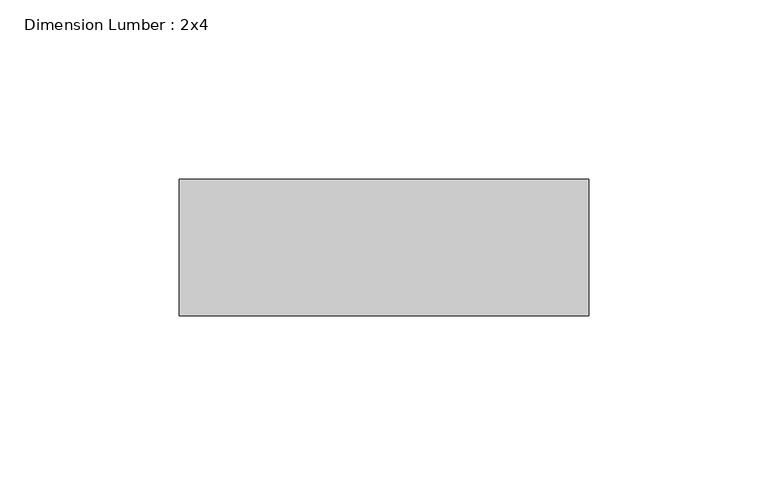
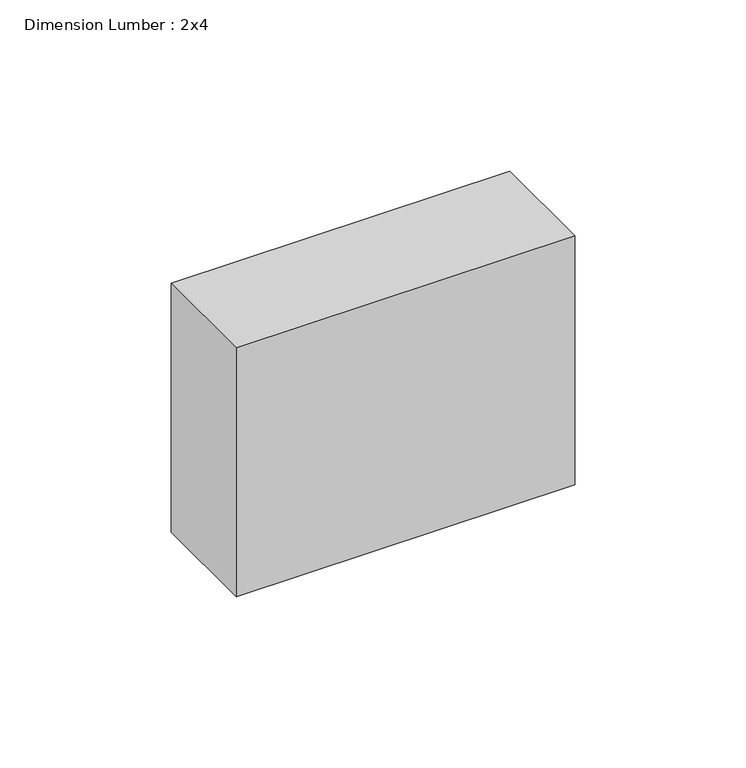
"""IFC4 building model written with IfcOpenShell, lengths in millimetres: beam geometry, Dimension Lumber : 2x4."""

import ifcopenshell
import ifcopenshell.guid

model = None  # the IFC model being written
_history = None  # IfcOwnerHistory: only IFC2X3 demands one
_inside = {}  # id of a spatial element -> (the spatial element, [elements in it])
_under = {}  # id of a project, library or spatial element -> (it, [spatial elements below it])
_declared = {}  # id of a project -> (the project, [libraries it declares])
_typed = {}  # id of a type object -> (the type object, [elements of that type])
_made_of = {}  # id of a material, layer set ... -> (it, [elements and type objects made of it])


def new_model(schema):
    """Start an empty IFC model of exactly this schema.

    Asked for "IFC4X3", IfcOpenShell would pick the latest addendum, in which some entities
    have other attributes; the version numbers below select the first issue.
    IFC2X3 requires an IfcOwnerHistory on every rooted entity: one is made here for all.
    """
    global model, _history
    if schema == "IFC4X3":
        model = ifcopenshell.file(schema_version=(4, 3, 0, 0))
    else:
        model = ifcopenshell.file(schema=schema)
    _inside.clear()
    _under.clear()
    _declared.clear()
    _typed.clear()
    _made_of.clear()
    _history = None
    if model.schema == "IFC2X3":
        org = make("IfcOrganization", Name="unknown")
        user = make(
            "IfcPersonAndOrganization",
            ThePerson=make("IfcPerson", FamilyName="unknown"),
            TheOrganization=org,
        )
        app = make(
            "IfcApplication",
            ApplicationDeveloper=org,
            Version="unknown",
            ApplicationFullName="unknown",
            ApplicationIdentifier="unknown",
        )
        _history = make(
            "IfcOwnerHistory",
            OwningUser=user,
            OwningApplication=app,
            ChangeAction="ADDED",
            CreationDate=0,
        )
    return model


def make(cls, **values):
    """One entity of the class cls with the attributes given. An attribute that is None is left unset."""
    return model.create_entity(
        cls, **{name: value for name, value in values.items() if value is not None}
    )


def rooted(cls, **values):
    """An entity with a GlobalId (a new one), such as an element, a storey or a relation."""
    return make(cls, GlobalId=ifcopenshell.guid.new(), OwnerHistory=_history, **values)


def si_unit(unit_type, name, prefix=None):
    """IfcSIUnit, for example si_unit("LENGTHUNIT", "METRE", prefix="MILLI")."""
    return make("IfcSIUnit", UnitType=unit_type, Prefix=prefix, Name=name)


def assignment(units):
    """IfcUnitAssignment: the units of a project."""
    return None if units is None else make("IfcUnitAssignment", Units=units)


def point(xyz):
    """IfcCartesianPoint."""
    return None if xyz is None else make("IfcCartesianPoint", Coordinates=xyz)


def direction(xyz):
    """IfcDirection."""
    return None if xyz is None else make("IfcDirection", DirectionRatios=xyz)


def frame(location, z_axis=None, x_axis=None):
    """IfcAxis2Placement3D, a coordinate frame: its origin and axes. An axis left out is left unset."""
    return make(
        "IfcAxis2Placement3D",
        Location=point(location),
        Axis=direction(z_axis),
        RefDirection=direction(x_axis),
    )


def origin():
    """The frame at (0, 0, 0) with its axes left unset."""
    return frame((0.0, 0.0, 0.0))


def place(relative_to, where):
    """IfcLocalPlacement: puts the frame where relative to a parent placement (None: the world)."""
    return make(
        "IfcLocalPlacement", PlacementRelTo=relative_to, RelativePlacement=where
    )


def context(
    kind, dimensions, precision=None, world=None, true_north=None, identifier=None
):
    """IfcGeometricRepresentationContext, for example the 3D "Model" context."""
    return make(
        "IfcGeometricRepresentationContext",
        ContextIdentifier=identifier,
        ContextType=kind,
        CoordinateSpaceDimension=dimensions,
        Precision=precision,
        WorldCoordinateSystem=world,
        TrueNorth=true_north,
    )


def project(units=None, contexts=None):
    """IfcProject with its units and contexts."""
    return rooted(
        "IfcProject",
        Name="project",
        RepresentationContexts=contexts,
        UnitsInContext=assignment(units),
    )


def spatial(cls, under=None, at=None, **own):
    """A site, building, storey or space (cls), placed at a placement, below another one or the project."""
    s = rooted(cls, ObjectPlacement=at, **own)
    if under is not None:
        _under.setdefault(under.id(), (under, []))[1].append(s)
    return s


def polyline(points):
    """IfcPolyline through the points."""
    return make("IfcPolyline", Points=[point(p) for p in points])


def outline(outer, holes=None, kind="AREA"):
    """IfcArbitraryClosedProfileDef: a profile drawn as a closed curve; with holes, ...WithVoids."""
    if holes is None:
        return make("IfcArbitraryClosedProfileDef", ProfileType=kind, OuterCurve=outer)
    return make(
        "IfcArbitraryProfileDefWithVoids",
        ProfileType=kind,
        OuterCurve=outer,
        InnerCurves=holes,
    )


def extrude(swept, where, along, depth):
    """IfcExtrudedAreaSolid: the profile swept, set in the frame where, extruded along a direction by depth."""
    return make(
        "IfcExtrudedAreaSolid",
        SweptArea=swept,
        Position=where,
        ExtrudedDirection=direction(along),
        Depth=depth,
    )


def shape(context_of_items, identifier, shape_type, items):
    """IfcShapeRepresentation: the items that make up one representation, for example the "Body"."""
    return make(
        "IfcShapeRepresentation",
        ContextOfItems=context_of_items,
        RepresentationIdentifier=identifier,
        RepresentationType=shape_type,
        Items=items,
    )


def source(mapping_origin, context_of_items, identifier, shape_type, items):
    """IfcRepresentationMap: a shape defined once, which mapped items show again and again."""
    return make(
        "IfcRepresentationMap",
        MappingOrigin=mapping_origin,
        MappedRepresentation=shape(context_of_items, identifier, shape_type, items),
    )


def transform(
    local_origin,
    x_axis=None,
    y_axis=None,
    z_axis=None,
    scale=None,
    scale2=None,
    scale3=None,
    uniform=True,
):
    """IfcCartesianTransformationOperator3D, or its non-uniform kind. x_axis, y_axis, z_axis: its Axis1, 2, 3."""
    if uniform:
        return make(
            "IfcCartesianTransformationOperator3D",
            Axis1=direction(x_axis),
            Axis2=direction(y_axis),
            LocalOrigin=point(local_origin),
            Scale=scale,
            Axis3=direction(z_axis),
        )
    return make(
        "IfcCartesianTransformationOperator3DnonUniform",
        Axis1=direction(x_axis),
        Axis2=direction(y_axis),
        LocalOrigin=point(local_origin),
        Scale=scale,
        Axis3=direction(z_axis),
        Scale2=scale2,
        Scale3=scale3,
    )


def mapped(mapping_source, mapping_target):
    """IfcMappedItem: shows the shape of a source again, moved by a transform."""
    return make(
        "IfcMappedItem", MappingSource=mapping_source, MappingTarget=mapping_target
    )


def made_of(thing, what):
    """Note that an element or type object is made of a material, layer set ...; save() writes the relation."""
    if what is not None:
        _made_of.setdefault(what.id(), (what, []))[1].append(thing)
    return thing


def element(
    cls,
    number,
    at=None,
    inside=None,
    cuts=None,
    type_object=None,
    material=None,
    context=None,
    identifier="Body",
    shape_type=None,
    held_by="IfcProductDefinitionShape",
    body=None,
    shapes=None,
    **own,
):
    """One element of the class cls, such as IfcWall. Its Tag is "e" and its number.

    at: its placement. inside: the storey or other place that contains it. cuts: it is an
    opening in that element (IfcRelVoidsElement). A single representation is given by context,
    identifier, shape_type and body (its items); several are given by shapes. held_by: the class
    of the entity that holds the representations. save() writes the other relations.
    """
    e = rooted(cls, Tag="e%d" % number, ObjectPlacement=at, **own)
    if body is not None:
        shapes = [shape(context, identifier, shape_type, body)]
    if shapes is not None:
        e.Representation = make(held_by, Representations=shapes)
    if inside is not None:
        _inside.setdefault(inside.id(), (inside, []))[1].append(e)
    if cuts is not None:
        rooted(
            "IfcRelVoidsElement", RelatingBuildingElement=cuts, RelatedOpeningElement=e
        )
    if type_object is not None:
        _typed.setdefault(type_object.id(), (type_object, []))[1].append(e)
    return made_of(e, material)


def aggregate(whole, parts):
    """IfcRelAggregates: a whole, such as a stair, and the parts it consists of."""
    return rooted("IfcRelAggregates", RelatingObject=whole, RelatedObjects=parts)


def save(model, path):
    """Write the relations noted so far, then the file.

    IfcRelAggregates (storeys below a building ...), IfcRelContainedInSpatialStructure (elements
    in a storey), IfcRelDefinesByType, IfcRelAssociatesMaterial and IfcRelDeclares: one each for
    every whole, place, type object, material and project.
    """
    for whole, parts in _under.values():
        aggregate(whole, parts)
    for where, things in _inside.values():
        rooted(
            "IfcRelContainedInSpatialStructure",
            RelatedElements=things,
            RelatingStructure=where,
        )
    for kind, things in _typed.values():
        rooted("IfcRelDefinesByType", RelatedObjects=things, RelatingType=kind)
    for what, things in _made_of.values():
        rooted("IfcRelAssociatesMaterial", RelatedObjects=things, RelatingMaterial=what)
    for by, libraries in _declared.values():
        rooted("IfcRelDeclares", RelatingContext=by, RelatedDefinitions=libraries)
    model.write(path)


def dimension_lumber_2x4_5a1c105c(model_context):
    return source(origin(), model_context, "Body", "SweptSolid", [
        extrude(outline(polyline([(57.15, 19.05), (57.15, -19.05), (-57.15, -19.05), (-57.15, 19.05), (57.15, 19.05)])), frame((0.0, 0.0, -44.45), z_axis=(0.0, 0.0, 1.0), x_axis=(1.0, 0.0, 0.0)), (0.0, 0.0, 1.0), 88.9),
    ])


if __name__ == "__main__":
    model = new_model("IFC4")
    model_context = context("Model", 3, world=origin())
    ifc_project = project(units=[si_unit("LENGTHUNIT", "METRE", prefix="MILLI")], contexts=[model_context])
    site = spatial("IfcSite", under=ifc_project)
    building = spatial("IfcBuilding", under=site)
    placement = place(None, origin())
    dimension_lumber_2x4_shape = dimension_lumber_2x4_5a1c105c(model_context)
    element("IfcBeam", 1, ObjectType="Dimension Lumber : 2x4", at=placement, inside=building, context=model_context, shape_type="MappedRepresentation", body=[
        mapped(dimension_lumber_2x4_shape, transform((0.0, 0.0, 0.0), x_axis=(1.0, 0.0, 0.0), y_axis=(0.0, 1.0, 0.0), z_axis=(0.0, 0.0, 1.0))),
    ])
    save(model, "model.ifc")
